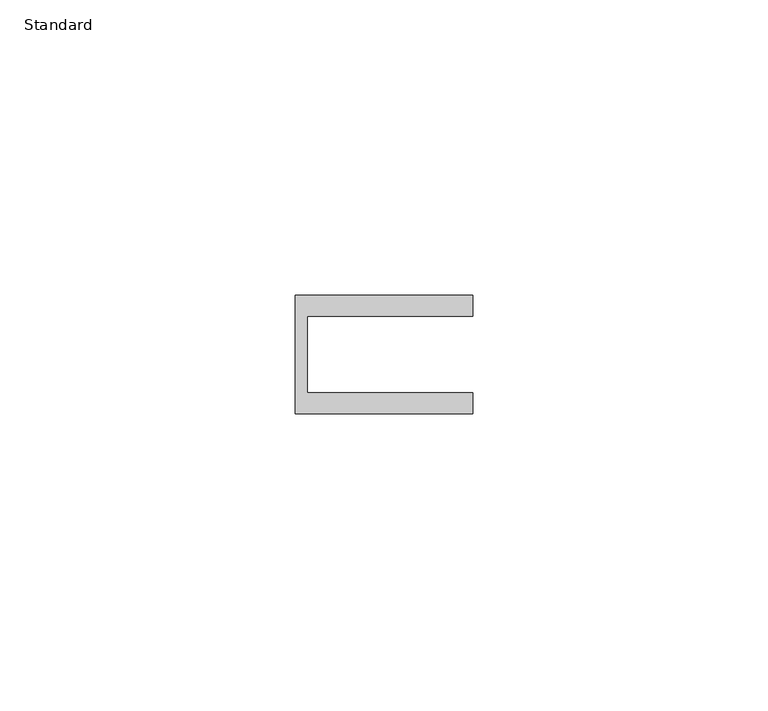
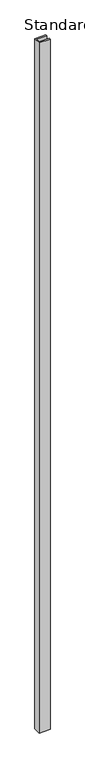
"""IFC4 building model written with IfcOpenShell, lengths in millimetres: furniture geometry, X_Partition-Channel-Duracube-End : Standard."""

import ifcopenshell
import ifcopenshell.guid

model = None  # the IFC model being written
_history = None  # IfcOwnerHistory: only IFC2X3 demands one
_inside = {}  # id of a spatial element -> (the spatial element, [elements in it])
_under = {}  # id of a project, library or spatial element -> (it, [spatial elements below it])
_declared = {}  # id of a project -> (the project, [libraries it declares])
_typed = {}  # id of a type object -> (the type object, [elements of that type])
_made_of = {}  # id of a material, layer set ... -> (it, [elements and type objects made of it])


def new_model(schema):
    """Start an empty IFC model of exactly this schema.

    Asked for "IFC4X3", IfcOpenShell would pick the latest addendum, in which some entities
    have other attributes; the version numbers below select the first issue.
    IFC2X3 requires an IfcOwnerHistory on every rooted entity: one is made here for all.
    """
    global model, _history
    if schema == "IFC4X3":
        model = ifcopenshell.file(schema_version=(4, 3, 0, 0))
    else:
        model = ifcopenshell.file(schema=schema)
    _inside.clear()
    _under.clear()
    _declared.clear()
    _typed.clear()
    _made_of.clear()
    _history = None
    if model.schema == "IFC2X3":
        org = make("IfcOrganization", Name="unknown")
        user = make(
            "IfcPersonAndOrganization",
            ThePerson=make("IfcPerson", FamilyName="unknown"),
            TheOrganization=org,
        )
        app = make(
            "IfcApplication",
            ApplicationDeveloper=org,
            Version="unknown",
            ApplicationFullName="unknown",
            ApplicationIdentifier="unknown",
        )
        _history = make(
            "IfcOwnerHistory",
            OwningUser=user,
            OwningApplication=app,
            ChangeAction="ADDED",
            CreationDate=0,
        )
    return model


def make(cls, **values):
    """One entity of the class cls with the attributes given. An attribute that is None is left unset."""
    return model.create_entity(
        cls, **{name: value for name, value in values.items() if value is not None}
    )


def rooted(cls, **values):
    """An entity with a GlobalId (a new one), such as an element, a storey or a relation."""
    return make(cls, GlobalId=ifcopenshell.guid.new(), OwnerHistory=_history, **values)


def si_unit(unit_type, name, prefix=None):
    """IfcSIUnit, for example si_unit("LENGTHUNIT", "METRE", prefix="MILLI")."""
    return make("IfcSIUnit", UnitType=unit_type, Prefix=prefix, Name=name)


def assignment(units):
    """IfcUnitAssignment: the units of a project."""
    return None if units is None else make("IfcUnitAssignment", Units=units)


def point(xyz):
    """IfcCartesianPoint."""
    return None if xyz is None else make("IfcCartesianPoint", Coordinates=xyz)


def direction(xyz):
    """IfcDirection."""
    return None if xyz is None else make("IfcDirection", DirectionRatios=xyz)


def frame(location, z_axis=None, x_axis=None):
    """IfcAxis2Placement3D, a coordinate frame: its origin and axes. An axis left out is left unset."""
    return make(
        "IfcAxis2Placement3D",
        Location=point(location),
        Axis=direction(z_axis),
        RefDirection=direction(x_axis),
    )


def origin():
    """The frame at (0, 0, 0) with its axes left unset."""
    return frame((0.0, 0.0, 0.0))


def origin_with_axes():
    """The frame at (0, 0, 0) with the z axis (0, 0, 1) and the x axis (1, 0, 0) written out."""
    return frame((0.0, 0.0, 0.0), z_axis=(0.0, 0.0, 1.0), x_axis=(1.0, 0.0, 0.0))


def place(relative_to, where):
    """IfcLocalPlacement: puts the frame where relative to a parent placement (None: the world)."""
    return make(
        "IfcLocalPlacement", PlacementRelTo=relative_to, RelativePlacement=where
    )


def context(
    kind, dimensions, precision=None, world=None, true_north=None, identifier=None
):
    """IfcGeometricRepresentationContext, for example the 3D "Model" context."""
    return make(
        "IfcGeometricRepresentationContext",
        ContextIdentifier=identifier,
        ContextType=kind,
        CoordinateSpaceDimension=dimensions,
        Precision=precision,
        WorldCoordinateSystem=world,
        TrueNorth=true_north,
    )


def project(units=None, contexts=None):
    """IfcProject with its units and contexts."""
    return rooted(
        "IfcProject",
        Name="project",
        RepresentationContexts=contexts,
        UnitsInContext=assignment(units),
    )


def spatial(cls, under=None, at=None, **own):
    """A site, building, storey or space (cls), placed at a placement, below another one or the project."""
    s = rooted(cls, ObjectPlacement=at, **own)
    if under is not None:
        _under.setdefault(under.id(), (under, []))[1].append(s)
    return s


def polyline(points):
    """IfcPolyline through the points."""
    return make("IfcPolyline", Points=[point(p) for p in points])


def outline(outer, holes=None, kind="AREA"):
    """IfcArbitraryClosedProfileDef: a profile drawn as a closed curve; with holes, ...WithVoids."""
    if holes is None:
        return make("IfcArbitraryClosedProfileDef", ProfileType=kind, OuterCurve=outer)
    return make(
        "IfcArbitraryProfileDefWithVoids",
        ProfileType=kind,
        OuterCurve=outer,
        InnerCurves=holes,
    )


def extrude(swept, where, along, depth):
    """IfcExtrudedAreaSolid: the profile swept, set in the frame where, extruded along a direction by depth."""
    return make(
        "IfcExtrudedAreaSolid",
        SweptArea=swept,
        Position=where,
        ExtrudedDirection=direction(along),
        Depth=depth,
    )


def shape(context_of_items, identifier, shape_type, items):
    """IfcShapeRepresentation: the items that make up one representation, for example the "Body"."""
    return make(
        "IfcShapeRepresentation",
        ContextOfItems=context_of_items,
        RepresentationIdentifier=identifier,
        RepresentationType=shape_type,
        Items=items,
    )


def source(mapping_origin, context_of_items, identifier, shape_type, items):
    """IfcRepresentationMap: a shape defined once, which mapped items show again and again."""
    return make(
        "IfcRepresentationMap",
        MappingOrigin=mapping_origin,
        MappedRepresentation=shape(context_of_items, identifier, shape_type, items),
    )


def transform(
    local_origin,
    x_axis=None,
    y_axis=None,
    z_axis=None,
    scale=None,
    scale2=None,
    scale3=None,
    uniform=True,
):
    """IfcCartesianTransformationOperator3D, or its non-uniform kind. x_axis, y_axis, z_axis: its Axis1, 2, 3."""
    if uniform:
        return make(
            "IfcCartesianTransformationOperator3D",
            Axis1=direction(x_axis),
            Axis2=direction(y_axis),
            LocalOrigin=point(local_origin),
            Scale=scale,
            Axis3=direction(z_axis),
        )
    return make(
        "IfcCartesianTransformationOperator3DnonUniform",
        Axis1=direction(x_axis),
        Axis2=direction(y_axis),
        LocalOrigin=point(local_origin),
        Scale=scale,
        Axis3=direction(z_axis),
        Scale2=scale2,
        Scale3=scale3,
    )


def mapped(mapping_source, mapping_target):
    """IfcMappedItem: shows the shape of a source again, moved by a transform."""
    return make(
        "IfcMappedItem", MappingSource=mapping_source, MappingTarget=mapping_target
    )


def made_of(thing, what):
    """Note that an element or type object is made of a material, layer set ...; save() writes the relation."""
    if what is not None:
        _made_of.setdefault(what.id(), (what, []))[1].append(thing)
    return thing


def element(
    cls,
    number,
    at=None,
    inside=None,
    cuts=None,
    type_object=None,
    material=None,
    context=None,
    identifier="Body",
    shape_type=None,
    held_by="IfcProductDefinitionShape",
    body=None,
    shapes=None,
    **own,
):
    """One element of the class cls, such as IfcWall. Its Tag is "e" and its number.

    at: its placement. inside: the storey or other place that contains it. cuts: it is an
    opening in that element (IfcRelVoidsElement). A single representation is given by context,
    identifier, shape_type and body (its items); several are given by shapes. held_by: the class
    of the entity that holds the representations. save() writes the other relations.
    """
    e = rooted(cls, Tag="e%d" % number, ObjectPlacement=at, **own)
    if body is not None:
        shapes = [shape(context, identifier, shape_type, body)]
    if shapes is not None:
        e.Representation = make(held_by, Representations=shapes)
    if inside is not None:
        _inside.setdefault(inside.id(), (inside, []))[1].append(e)
    if cuts is not None:
        rooted(
            "IfcRelVoidsElement", RelatingBuildingElement=cuts, RelatedOpeningElement=e
        )
    if type_object is not None:
        _typed.setdefault(type_object.id(), (type_object, []))[1].append(e)
    return made_of(e, material)


def aggregate(whole, parts):
    """IfcRelAggregates: a whole, such as a stair, and the parts it consists of."""
    return rooted("IfcRelAggregates", RelatingObject=whole, RelatedObjects=parts)


def save(model, path):
    """Write the relations noted so far, then the file.

    IfcRelAggregates (storeys below a building ...), IfcRelContainedInSpatialStructure (elements
    in a storey), IfcRelDefinesByType, IfcRelAssociatesMaterial and IfcRelDeclares: one each for
    every whole, place, type object, material and project.
    """
    for whole, parts in _under.values():
        aggregate(whole, parts)
    for where, things in _inside.values():
        rooted(
            "IfcRelContainedInSpatialStructure",
            RelatedElements=things,
            RelatingStructure=where,
        )
    for kind, things in _typed.values():
        rooted("IfcRelDefinesByType", RelatedObjects=things, RelatingType=kind)
    for what, things in _made_of.values():
        rooted("IfcRelAssociatesMaterial", RelatedObjects=things, RelatingMaterial=what)
    for by, libraries in _declared.values():
        rooted("IfcRelDeclares", RelatingContext=by, RelatedDefinitions=libraries)
    model.write(path)


def standard_90f6d6dc(model_context):
    return source(origin(), model_context, "Body", "SweptSolid", [
        extrude(outline(polyline([(31.7003264, 0.0), (31.7003264, -13.0), (59.7003264, -13.0), (59.7003264, -16.5), (29.7003264, -16.5), (29.7003264, 3.5), (59.7003264, 3.5), (59.7003264, 0.0), (31.7003264, 0.0)])), origin_with_axes(), (0.0, 0.0, 1.0), 1999.0),
    ])


if __name__ == "__main__":
    model = new_model("IFC4")
    model_context = context("Model", 3, world=origin())
    ifc_project = project(units=[si_unit("LENGTHUNIT", "METRE", prefix="MILLI")], contexts=[model_context])
    site = spatial("IfcSite", under=ifc_project)
    building = spatial("IfcBuilding", under=site)
    placement = place(None, origin())
    standard_shape = standard_90f6d6dc(model_context)
    element("IfcFurniture", 1, ObjectType="X_Partition-Channel-Duracube-End : Standard", at=placement, inside=building, context=model_context, shape_type="MappedRepresentation", body=[
        mapped(standard_shape, transform((0.0, 0.0, 0.0), x_axis=(1.0, 0.0, 0.0), y_axis=(0.0, 1.0, 0.0), z_axis=(0.0, 0.0, 1.0))),
    ])
    save(model, "model.ifc")
